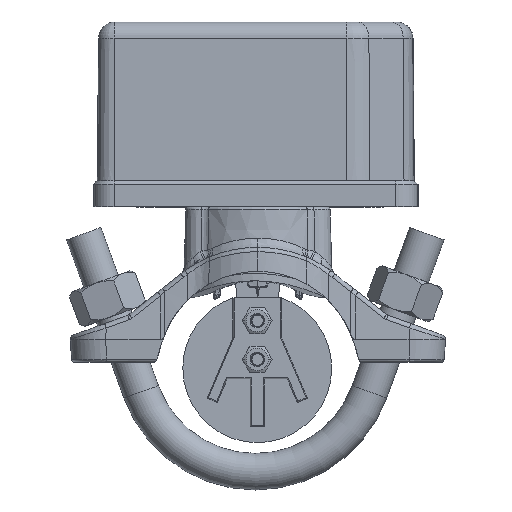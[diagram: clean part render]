
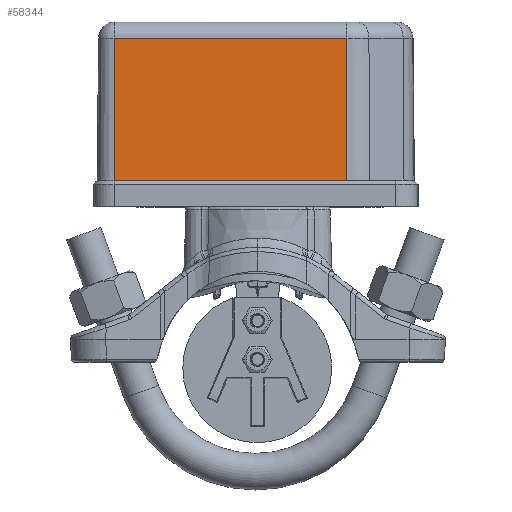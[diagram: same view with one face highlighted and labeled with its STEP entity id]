
A CAD part, top view. The second image highlights one B-rep face of the part: STEP entity #58344.
In plain terms, the highlighted planar face has unit normal (-0.013, 0.009, 1).
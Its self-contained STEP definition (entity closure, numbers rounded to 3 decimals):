
#162 = CARTESIAN_POINT ( 'NONE',  ( -45.306, 70.081, 184.803 ) ) ;
#4705 = EDGE_CURVE ( 'NONE', #28938, #14549, #19542, .T. ) ;
#5652 = ORIENTED_EDGE ( 'NONE', *, *, #62890, .T. ) ;
#6148 = AXIS2_PLACEMENT_3D ( 'NONE', #47275, #14220, #68994 ) ;
#8085 = VECTOR ( 'NONE', #41732, 1000. ) ;
#12400 = EDGE_CURVE ( 'NONE', #42919, #45072, #66637, .T. ) ;
#13975 = PLANE ( 'NONE',  #6148 ) ;
#14220 = DIRECTION ( 'NONE',  ( -0.013, 0.009, 1. ) ) ;
#14549 = VERTEX_POINT ( 'NONE', #51810 ) ;
#14881 = ORIENTED_EDGE ( 'NONE', *, *, #12400, .T. ) ;
#19102 = EDGE_CURVE ( 'NONE', #28938, #45072, #19266, .T. ) ;
#19266 = LINE ( 'NONE', #69297, #8085 ) ;
#19542 = LINE ( 'NONE', #162, #36867 ) ;
#20831 = ORIENTED_EDGE ( 'NONE', *, *, #4705, .T. ) ;
#21000 = VECTOR ( 'NONE', #44076, 1000. ) ;
#22720 = LINE ( 'NONE', #54694, #21000 ) ;
#28938 = VERTEX_POINT ( 'NONE', #70880 ) ;
#34135 = DIRECTION ( 'NONE',  ( -1., 0., -0.013 ) ) ;
#36867 = VECTOR ( 'NONE', #34135, 1000. ) ;
#37451 = VECTOR ( 'NONE', #56478, 1000. ) ;
#41732 = DIRECTION ( 'NONE',  ( 0., -1., 0.009 ) ) ;
#42919 = VERTEX_POINT ( 'NONE', #68477 ) ;
#44076 = DIRECTION ( 'NONE',  ( 0., -1., 0.009 ) ) ;
#45072 = VERTEX_POINT ( 'NONE', #45679 ) ;
#45679 = CARTESIAN_POINT ( 'NONE',  ( 26.541, 26.037, 186.11 ) ) ;
#47275 = CARTESIAN_POINT ( 'NONE',  ( -45.311, 26.037, 185.187 ) ) ;
#51810 = CARTESIAN_POINT ( 'NONE',  ( -45.306, 70.081, 184.803 ) ) ;
#54694 = CARTESIAN_POINT ( 'NONE',  ( -45.311, 26.037, 185.187 ) ) ;
#54869 = EDGE_LOOP ( 'NONE', ( #65672, #20831, #5652, #14881 ) ) ;
#55206 = FACE_OUTER_BOUND ( 'NONE', #54869, .T. ) ;
#56478 = DIRECTION ( 'NONE',  ( 1., 0., 0.013 ) ) ;
#58344 = ADVANCED_FACE ( 'NONE', ( #55206 ), #13975, .T. ) ;
#62890 = EDGE_CURVE ( 'NONE', #14549, #42919, #22720, .T. ) ;
#65672 = ORIENTED_EDGE ( 'NONE', *, *, #19102, .F. ) ;
#66637 = LINE ( 'NONE', #66970, #37451 ) ;
#66970 = CARTESIAN_POINT ( 'NONE',  ( 41.682, 26.037, 186.305 ) ) ;
#68477 = CARTESIAN_POINT ( 'NONE',  ( -45.311, 26.037, 185.187 ) ) ;
#68994 = DIRECTION ( 'NONE',  ( 0., -1., 0.009 ) ) ;
#69297 = CARTESIAN_POINT ( 'NONE',  ( 26.541, 26.037, 186.11 ) ) ;
#70880 = CARTESIAN_POINT ( 'NONE',  ( 26.546, 70.081, 185.726 ) ) ;
